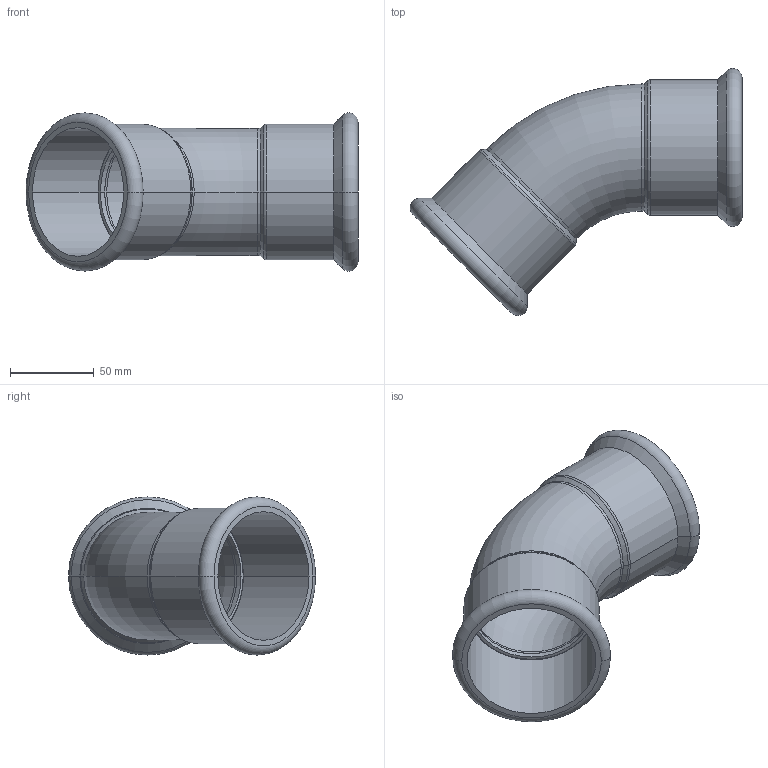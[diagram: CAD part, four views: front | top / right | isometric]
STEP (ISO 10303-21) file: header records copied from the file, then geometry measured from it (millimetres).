
FILE_DESCRIPTION(('CoCreate Modeling STEP Export'),'2;1');
FILE_NAME('C1413 76.1x76.1.stp','2014-11-11T16:52:02',(''),(''),'CoCreate Modeling STEP processor for AP214 (Solid Model)','CoCreate Modeling 17.00A 17-Jun-2010 (C) Parametric Technology GmbH','');
FILE_SCHEMA(('AUTOMOTIVE_DESIGN { 1 0 10303 214 1 1 1 1 }'));
Length unit declared in the file: millimetre
Products named in the file (2): C1413_76x76
Assembly tree (1 placements, depth 2):
  C1413_76x76
    C1413_76x76
Bounding box: 198.42 x 147.66 x 94.48 mm (x, y, z)
Volume: 131078.5 mm3; surface area: 100513.6 mm2
Topology: 1 solids, 1 shells, 54 faces, 117 edges, 73 vertices
Faces by surface type: cylinder 24, torus 12, plane 10, cone 8
Entity records: 1250 total; most frequent: ORIENTED_EDGE 234, DIRECTION 192, CARTESIAN_POINT 185, EDGE_CURVE 117, AXIS2_PLACEMENT_3D 80, VERTEX_POINT 73, EDGE_LOOP 64, FACE_OUTER_BOUND 54
